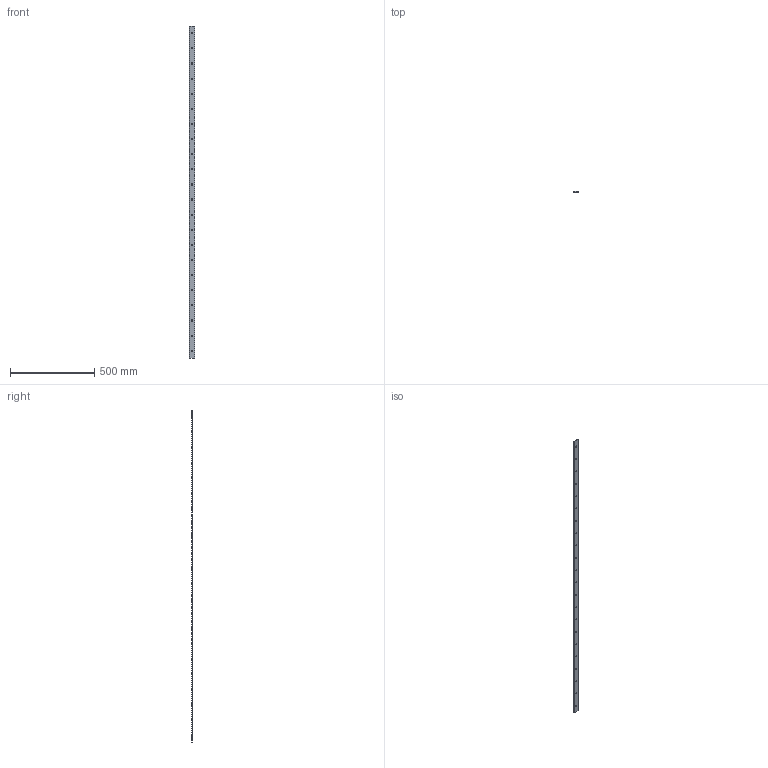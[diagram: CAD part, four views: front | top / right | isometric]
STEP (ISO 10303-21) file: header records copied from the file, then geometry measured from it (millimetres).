
FILE_DESCRIPTION(('STEP AP203'),'1');
FILE_NAME('slide_s35l1976p3.stp','2022-07-01T06:00:06',('TraceParts'),('TraceParts S.A.'),'Spatial InterOp 3D',' ',' ');
FILE_SCHEMA(('CONFIG_CONTROL_DESIGN'));
Length unit declared in the file: millimetre
Products named in the file (1): 1
Bounding box: 35.45 x 4.93 x 1976 mm (x, y, z)
Volume: 316813.5 mm3; surface area: 148911.5 mm2
Topology: 1 solids, 1 shells, 56 faces, 162 edges, 108 vertices
Faces by surface type: cylinder 48, plane 8
Entity records: 2034 total; most frequent: DIRECTION 372, CARTESIAN_POINT 327, ORIENTED_EDGE 324, EDGE_CURVE 162, AXIS2_PLACEMENT_3D 153, VERTEX_POINT 108, EDGE_LOOP 100, CIRCLE 96
